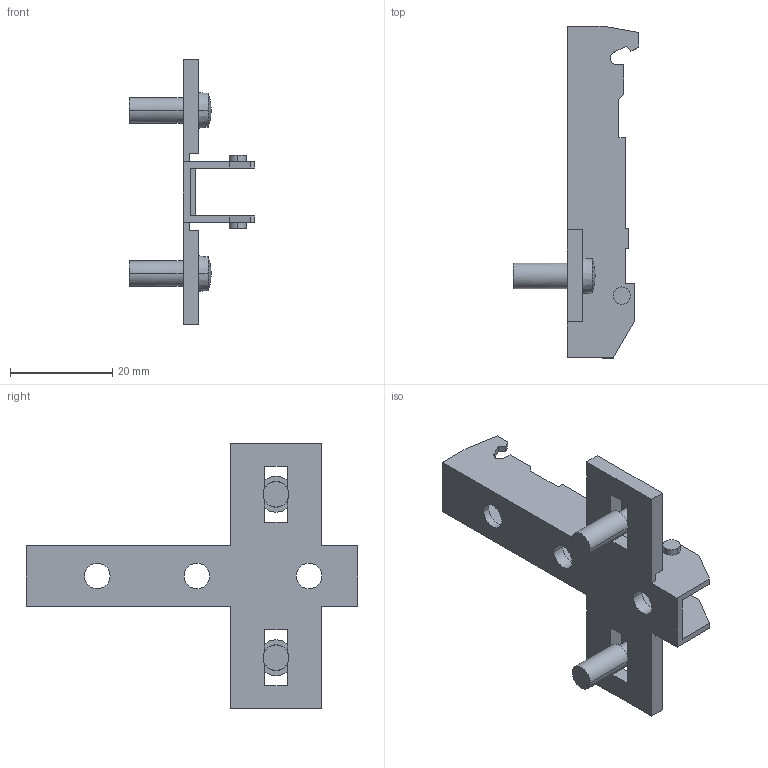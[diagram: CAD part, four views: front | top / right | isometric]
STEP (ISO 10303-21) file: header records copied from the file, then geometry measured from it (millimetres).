
FILE_DESCRIPTION (( 'STEP AP214' ), '1' );
FILE_NAME ('Eco Kreuzmontageplatte LR28_32_Dübel 5mm_lang_H3,5.step', '2010-11-18T10:07:28', ( 'grass' ), ( '' ), 'SwSTEP 2.0', 'SolidWorks 2010', '' );
FILE_SCHEMA (( 'AUTOMOTIVE_DESIGN' ));
Length unit declared in the file: millimetre
Products named in the file (1): Eco Kreuzmontageplatte LR28_32_Dübel 5mm_lang_H3,5
Bounding box: 24.5 x 65 x 52 mm (x, y, z)
Volume: 5238.7 mm3; surface area: 6817.6 mm2
Topology: 1 solids, 1 shells, 104 faces, 310 edges, 202 vertices
Faces by surface type: plane 76, cylinder 20, sphere 4, cone 4
Entity records: 3552 total; most frequent: ORIENTED_EDGE 620, CARTESIAN_POINT 617, DIRECTION 592, EDGE_CURVE 310, VECTOR 238, LINE 238, VERTEX_POINT 202, AXIS2_PLACEMENT_3D 177
